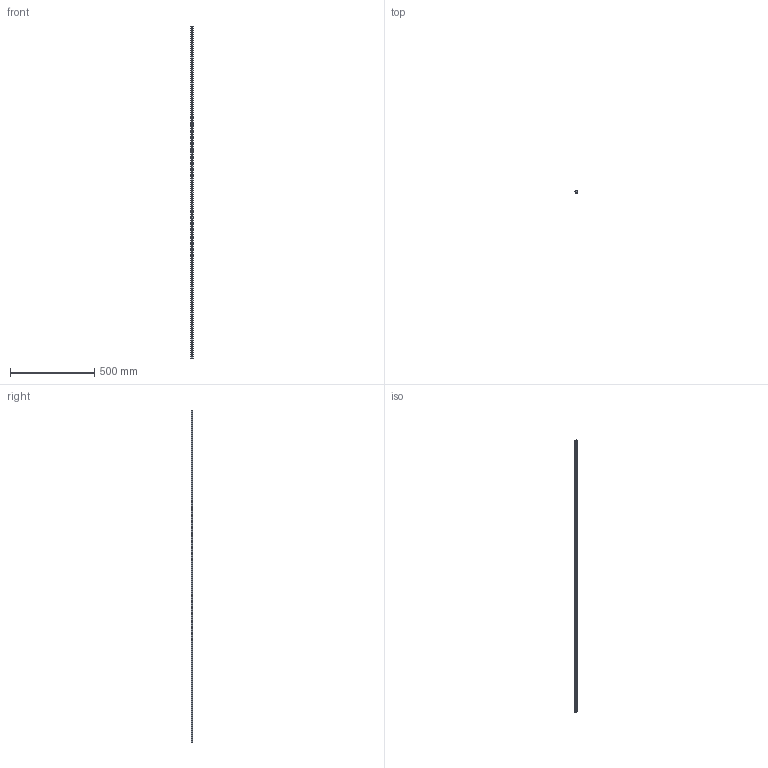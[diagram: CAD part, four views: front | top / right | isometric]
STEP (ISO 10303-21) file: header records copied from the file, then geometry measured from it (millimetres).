
FILE_DESCRIPTION(('STEP AP203'),'1');
FILE_NAME('slide_nvel1976p3.stp','2022-07-04T01:17:16',('TraceParts'),('TraceParts S.A.'),'Spatial InterOp 3D',' ',' ');
FILE_SCHEMA(('CONFIG_CONTROL_DESIGN'));
Length unit declared in the file: millimetre
Products named in the file (1): 1
Bounding box: 16.35 x 10.41 x 1976 mm (x, y, z)
Volume: 253720.2 mm3; surface area: 111904.4 mm2
Topology: 1 solids, 1 shells, 198 faces, 588 edges, 392 vertices
Faces by surface type: plane 101, cylinder 97
Entity records: 6906 total; most frequent: DIRECTION 1268, CARTESIAN_POINT 1179, ORIENTED_EDGE 1176, EDGE_CURVE 588, AXIS2_PLACEMENT_3D 481, VERTEX_POINT 392, LINE 306, VECTOR 306
